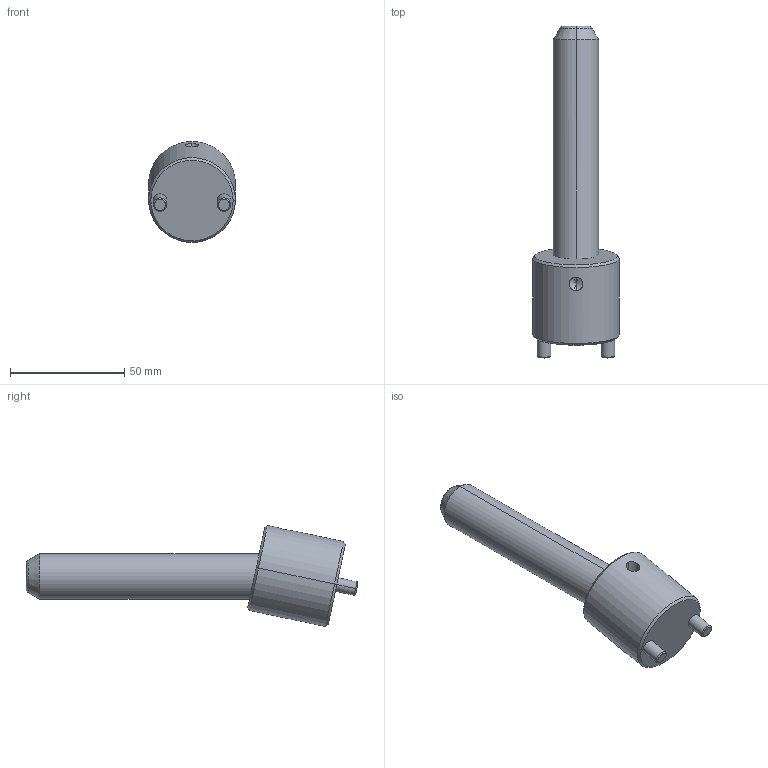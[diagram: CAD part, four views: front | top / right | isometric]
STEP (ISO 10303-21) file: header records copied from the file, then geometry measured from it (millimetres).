
FILE_DESCRIPTION(('CATIA V5 STEP Exchange'),'2;1');
FILE_NAME('C:\Users\Raffaele\Desktop\3D BOLEX\3D FILES CF BOLEX\19-INCLINED ASSEMBLY REF_CI\CI1220100.stp','2019-06-21T14:05:26+00:00',('none'),('none'),'CATIA Version 5 Release 20 GA (IN-10)','CATIA V5 STEP AP203','none');
FILE_SCHEMA(('CONFIG_CONTROL_DESIGN'));
Length unit declared in the file: millimetre
Products named in the file (1): CI1220100
Assembly tree (2 placements, depth 2):
  CI1220100
    #58
    #572
Bounding box: 38 x 145.37 x 44.24 mm (x, y, z)
Volume: 71519 mm3; surface area: 17445.9 mm2
Topology: 2 solids, 2 shells, 39 faces, 82 edges, 47 vertices
Faces by surface type: cone 14, cylinder 14, plane 7, torus 4
Entity records: 1506 total; most frequent: CARTESIAN_POINT 649, ORIENTED_EDGE 160, DIRECTION 144, EDGE_CURVE 80, AXIS2_PLACEMENT_3D 71, VERTEX_POINT 47, EDGE_LOOP 43, ADVANCED_FACE 39
